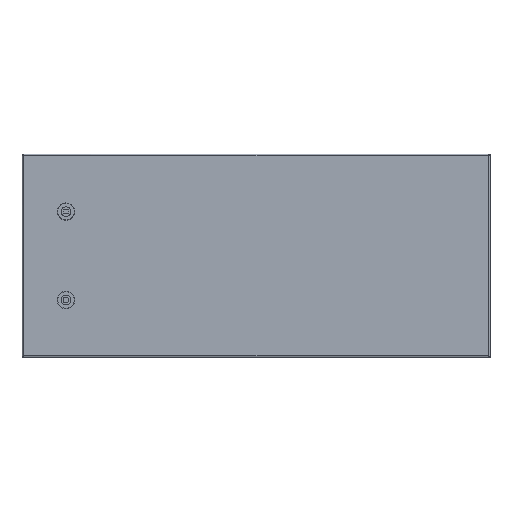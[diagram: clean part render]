
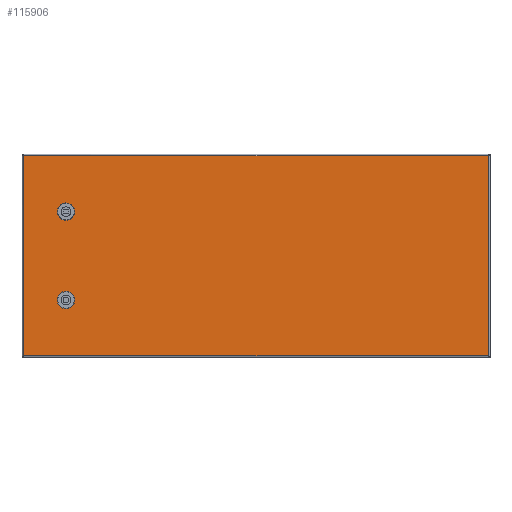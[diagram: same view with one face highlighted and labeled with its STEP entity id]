
A CAD part, top view. The second image highlights one B-rep face of the part: STEP entity #115906.
In plain terms, the highlighted planar face has unit normal (0, 0, 1).
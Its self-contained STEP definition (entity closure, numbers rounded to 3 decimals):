
#115016=CARTESIAN_POINT(' ',(2.8,0.8,0.));
#115021=DIRECTION(' ',(1.,0.,0.));
#115026=VECTOR(' ',#115021,1.);
#115031=LINE('',#115016,#115026);
#115036=CARTESIAN_POINT(' ',(2.8,0.8,0.));
#115037=VERTEX_POINT(' ',#115036);
#115041=CARTESIAN_POINT(' ',(791.2,0.8,0.));
#115042=VERTEX_POINT(' ',#115041);
#115046=EDGE_CURVE(' ',#115037,#115042,#115031,.T.);
#115766=DIRECTION(' ',(-0.,-0.,1.));
#115771=CARTESIAN_POINT(' ',(791.2,0.8,0.));
#115776=DIRECTION(' ',(0.,1.,0.));
#115781=AXIS2_PLACEMENT_3D(' ',#115771,#115766,#115776);
#115786=PLANE('NONE',#115781);
#115791=ORIENTED_EDGE(' ',*,*,#115046,.T.);
#115796=CARTESIAN_POINT(' ',(791.2,340.2,0.));
#115801=DIRECTION(' ',(0.,-1.,0.));
#115806=VECTOR(' ',#115801,1.);
#115811=LINE('',#115796,#115806);
#115816=CARTESIAN_POINT(' ',(791.2,340.2,0.));
#115817=VERTEX_POINT(' ',#115816);
#115821=EDGE_CURVE(' ',#115817,#115042,#115811,.T.);
#115826=ORIENTED_EDGE(' ',*,*,#115821,.F.);
#115831=CARTESIAN_POINT(' ',(791.2,340.2,0.));
#115836=DIRECTION(' ',(-1.,0.,0.));
#115841=VECTOR(' ',#115836,1.);
#115846=LINE('',#115831,#115841);
#115851=CARTESIAN_POINT(' ',(2.8,340.2,0.));
#115852=VERTEX_POINT(' ',#115851);
#115856=EDGE_CURVE(' ',#115817,#115852,#115846,.T.);
#115861=ORIENTED_EDGE(' ',*,*,#115856,.T.);
#115866=CARTESIAN_POINT(' ',(2.8,340.2,0.));
#115871=DIRECTION(' ',(0.,-1.,0.));
#115876=VECTOR(' ',#115871,1.);
#115881=LINE('',#115866,#115876);
#115886=EDGE_CURVE(' ',#115852,#115037,#115881,.T.);
#115891=ORIENTED_EDGE(' ',*,*,#115886,.T.);
#115896=EDGE_LOOP(' ',(#115791,#115826,#115861,#115891));
#115901=FACE_OUTER_BOUND(' ',#115896,.T.);
#115906=ADVANCED_FACE('NONE',(#115901),#115786,.T.);
